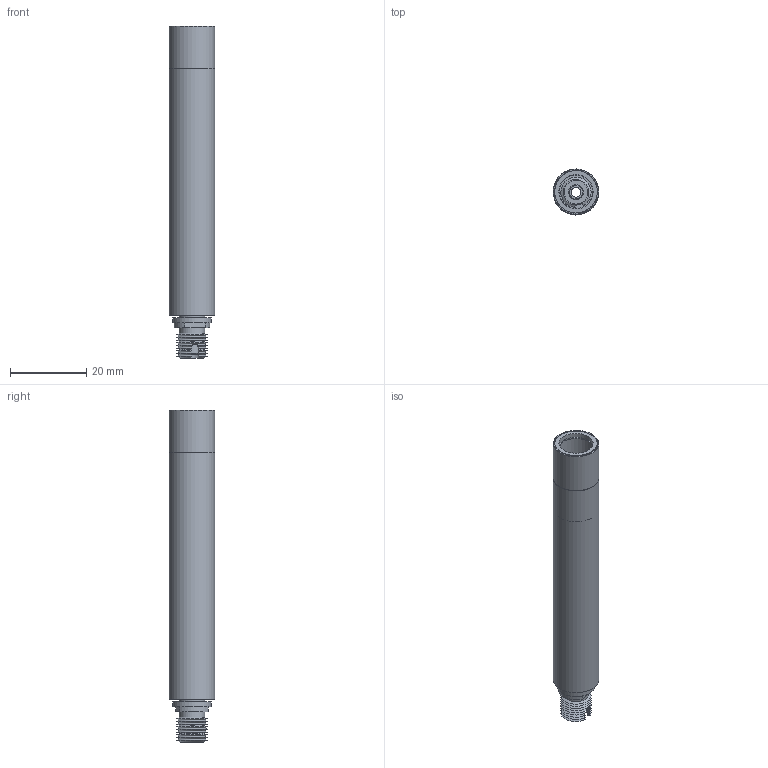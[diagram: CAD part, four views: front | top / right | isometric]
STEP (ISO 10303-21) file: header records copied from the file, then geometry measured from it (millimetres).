
FILE_DESCRIPTION(/* description */ (''),/* implementation_level */ '2;1');
FILE_NAME(/* name */ 'K:\ME\CAD Daten\IFS2407\IFS2407-0,8\IFS2407-0,8.stp',/* time_stamp */ '2020-10-30T13:45:32+01:00',/* author */ ('sven'),/* organization */ (''),/* preprocessor_version */ 'ST-DEVELOPER v16.13',/* originating_system */ 'Autodesk Inventor 2018',/* authorisation */ '');
FILE_SCHEMA (('AUTOMOTIVE_DESIGN { 1 0 10303 214 3 1 1 }'));
Length unit declared in the file: millimetre
Products named in the file (6): IFS2407-0,8; FOA-019; FOA-019_1; Außenrohr; Fassung FL; Verbindung
Assembly tree (5 placements, depth 3):
  IFS2407-0,8
    FOA-019
      FOA-019_1
    Außenrohr
    Fassung FL
    Verbindung
Bounding box: 12 x 12 x 87.35 mm (x, y, z)
Volume: 2647.3 mm3; surface area: 7483.3 mm2
Topology: 4 solids, 4 shells, 80 faces, 186 edges, 122 vertices
Faces by surface type: cone 34, plane 24, cylinder 22
Full cylindrical faces by diameter (mm): 2.54 x1, 3.962 x2, 5.969 x1, 6.24 x1, 6.731 x2, 8.8 x1, 9 x1, 10 x2, 11.2 x2, 11.6 x2, 12 x2
Entity records: 2352 total; most frequent: CARTESIAN_POINT 540, DIRECTION 358, ORIENTED_EDGE 286, AXIS2_PLACEMENT_3D 166, EDGE_CURVE 143, EDGE_LOOP 129, VERTEX_POINT 112, FACE_OUTER_BOUND 80
